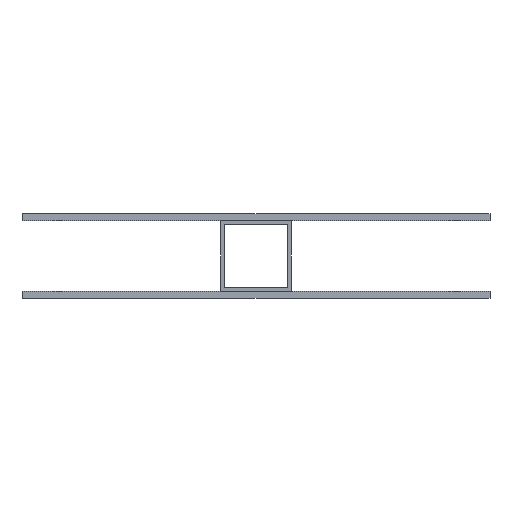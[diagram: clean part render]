
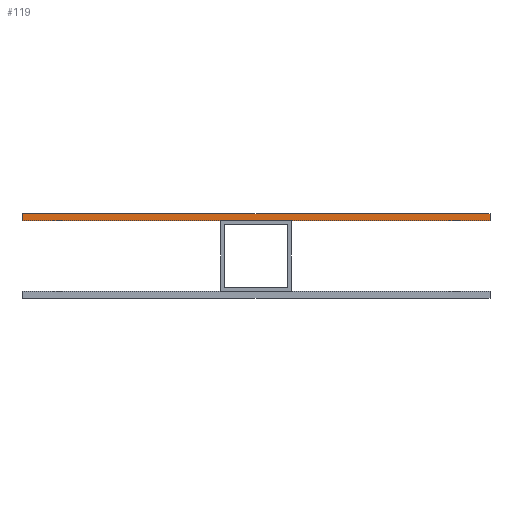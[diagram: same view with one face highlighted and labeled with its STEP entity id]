
A CAD part, left-side view. The second image highlights one B-rep face of the part: STEP entity #119.
In plain terms, the highlighted planar face has unit normal (-1, 0, 0).
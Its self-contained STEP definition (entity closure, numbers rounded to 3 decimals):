
#93=FACE_OUTER_BOUND('',#237,.T.);
#119=ADVANCED_FACE('',(#93),#149,.F.);
#149=PLANE('',#696);
#237=EDGE_LOOP('',(#348,#349,#350,#351));
#348=ORIENTED_EDGE('',*,*,#520,.T.);
#349=ORIENTED_EDGE('',*,*,#507,.F.);
#350=ORIENTED_EDGE('',*,*,#521,.F.);
#351=ORIENTED_EDGE('',*,*,#518,.T.);
#440=VERTEX_POINT('',#953);
#443=VERTEX_POINT('',#958);
#450=VERTEX_POINT('',#980);
#451=VERTEX_POINT('',#982);
#507=EDGE_CURVE('',#443,#440,#575,.T.);
#518=EDGE_CURVE('',#451,#450,#586,.T.);
#520=EDGE_CURVE('',#450,#440,#588,.T.);
#521=EDGE_CURVE('',#451,#443,#589,.T.);
#575=LINE('',#959,#635);
#586=LINE('',#981,#646);
#588=LINE('',#985,#648);
#589=LINE('',#986,#649);
#635=VECTOR('',#792,1.);
#646=VECTOR('',#811,1.);
#648=VECTOR('',#815,1.);
#649=VECTOR('',#816,1.);
#696=AXIS2_PLACEMENT_3D('',#987,#817,#818);
#792=DIRECTION('',(0.,0.,-1.));
#811=DIRECTION('',(0.,0.,-1.));
#815=DIRECTION('',(0.,-1.,0.));
#816=DIRECTION('',(0.,-1.,0.));
#817=DIRECTION('',(1.,0.,0.));
#818=DIRECTION('',(0.,1.,0.));
#953=CARTESIAN_POINT('',(-1250.761,-99.155,0.));
#958=CARTESIAN_POINT('',(-1250.761,-99.155,3.));
#959=CARTESIAN_POINT('',(-1250.761,-99.155,3.));
#980=CARTESIAN_POINT('',(-1250.761,99.155,0.));
#981=CARTESIAN_POINT('',(-1250.761,99.155,3.));
#982=CARTESIAN_POINT('',(-1250.761,99.155,3.));
#985=CARTESIAN_POINT('',(-1250.761,99.155,0.));
#986=CARTESIAN_POINT('',(-1250.761,0.,3.));
#987=CARTESIAN_POINT('',(-1250.761,99.155,3.));
